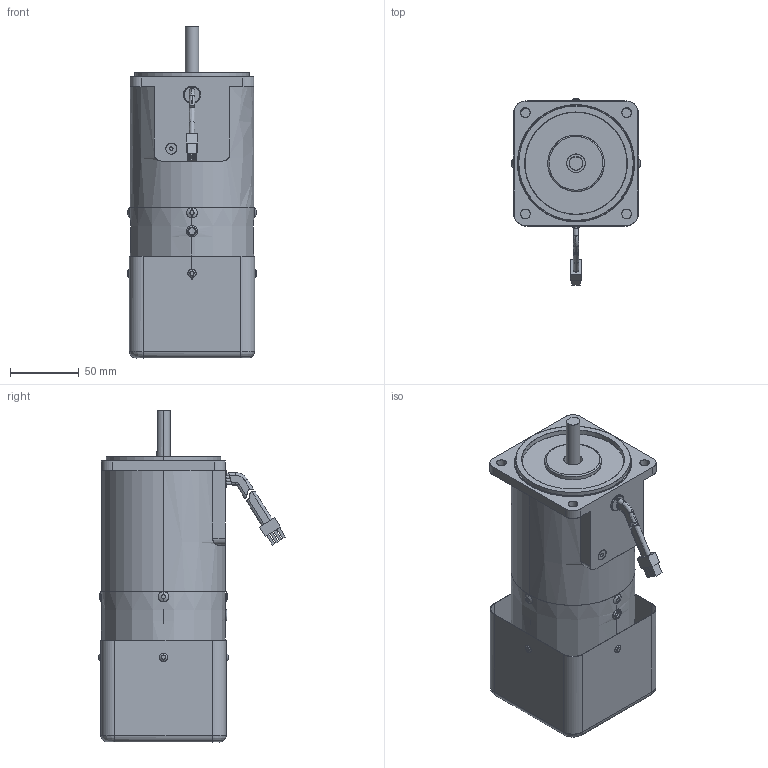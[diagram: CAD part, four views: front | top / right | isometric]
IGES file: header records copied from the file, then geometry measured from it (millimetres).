
Start section: SolidWorks IGES file using analytic representation for surfaces
Global section: file name: \\楷备家烹钦辑滚\data (D)\档搁 枚\权其捞瘤 档搁\9. SPEED BRAKE\90\60W\(9-56) 9SBDD∴-60F2.IGS; native system: SolidWorks 2007; preprocessor: SolidWorks 2007; author: user; date: 150723.090105; units: millimetre
Bounding box: 94 x 135.4 x 241 mm (x, y, z)
Surface area: 210574 mm2 (no closed solid volume)
Topology: 0 solids, 0 shells, 464 faces, 9202 edges, 9202 vertices
Faces by surface type: revolution 286, bspline 178
